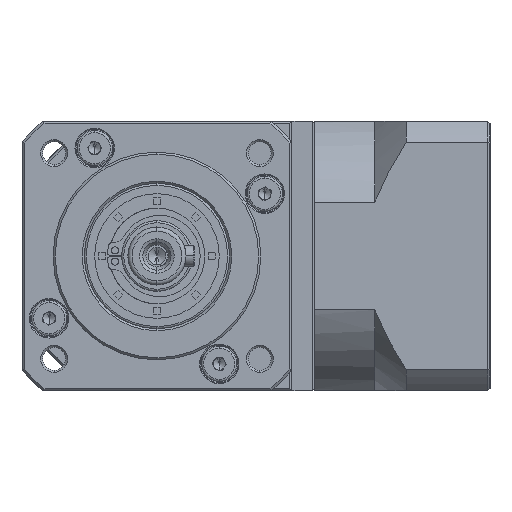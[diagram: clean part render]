
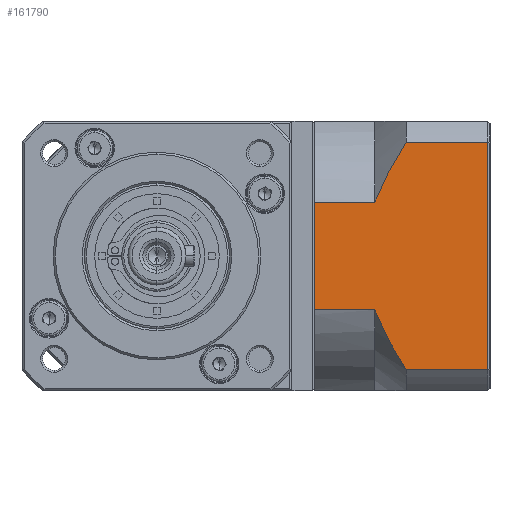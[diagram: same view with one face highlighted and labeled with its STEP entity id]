
A CAD part, left-side view. The second image highlights one B-rep face of the part: STEP entity #161790.
In plain terms, the highlighted planar face has unit normal (-1, 0, 0).
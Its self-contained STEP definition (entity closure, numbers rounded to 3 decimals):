
#1378 = CARTESIAN_POINT ( 'NONE',  ( -45.204, -89.908, -105.763 ) ) ;
#4580 = EDGE_CURVE ( 'NONE', #154354, #100182, #11435, .T. ) ;
#5959 = CARTESIAN_POINT ( 'NONE',  ( -45.204, -48.208, -165.649 ) ) ;
#7754 = CARTESIAN_POINT ( 'NONE',  ( -45.204, -70.208, -160.535 ) ) ;
#8000 = CARTESIAN_POINT ( 'NONE',  ( -45.204, -68.746, -158.267 ) ) ;
#8152 = CARTESIAN_POINT ( 'NONE',  ( -45.204, -67.359, -155.953 ) ) ;
#8299 = CARTESIAN_POINT ( 'NONE',  ( -45.204, -65.454, -152.372 ) ) ;
#8352 = CARTESIAN_POINT ( 'NONE',  ( -45.204, -64.849, -151.16 ) ) ;
#8505 = CARTESIAN_POINT ( 'NONE',  ( -45.204, -63.998, -149.306 ) ) ;
#8548 = CARTESIAN_POINT ( 'NONE',  ( -45.204, -63.725, -148.682 ) ) ;
#9080 = CARTESIAN_POINT ( 'NONE',  ( -45.204, -62.708, -146.14 ) ) ;
#9470 = CARTESIAN_POINT ( 'NONE',  ( -45.204, -62.946, -146.782 ) ) ;
#9625 = CARTESIAN_POINT ( 'NONE',  ( -45.204, -63.199, -147.421 ) ) ;
#11435 = B_SPLINE_CURVE_WITH_KNOTS ( 'NONE', 3,
 ( #9080, #9470, #9625, #8548, #8505, #8352, #8299, #8152, #8000, #7754 ),
 .UNSPECIFIED., .F., .F.,
 ( 4, 2, 2, 2, 4 ),
 ( 0.101, 0.103, 0.105, 0.109, 0.117 ),
 .UNSPECIFIED. ) ;
#16023 = EDGE_CURVE ( 'NONE', #135939, #92182, #148506, .T. ) ;
#17635 = DIRECTION ( 'NONE',  ( 0., -1., 0. ) ) ;
#20440 = ORIENTED_EDGE ( 'NONE', *, *, #144186, .F. ) ;
#21945 = VERTEX_POINT ( 'NONE', #145281 ) ;
#22747 = DIRECTION ( 'NONE',  ( 1., 0., 0. ) ) ;
#23406 = FACE_OUTER_BOUND ( 'NONE', #150719, .T. ) ;
#28427 = CARTESIAN_POINT ( 'NONE',  ( -45.204, -68.759, -108.052 ) ) ;
#41390 = CARTESIAN_POINT ( 'NONE',  ( -45.204, -66.705, -111.573 ) ) ;
#41940 = EDGE_CURVE ( 'NONE', #64549, #92182, #58186, .T. ) ;
#42322 = EDGE_CURVE ( 'NONE', #113428, #21945, #140531, .T. ) ;
#48085 = B_SPLINE_CURVE_WITH_KNOTS ( 'NONE', 3,
 ( #92722, #105701, #28427, #118697, #41390, #131579, #54371, #144392 ),
 .UNSPECIFIED., .F., .F.,
 ( 4, 2, 2, 4 ),
 ( 0.058, 0.062, 0.066, 0.074 ),
 .UNSPECIFIED. ) ;
#49183 = AXIS2_PLACEMENT_3D ( 'NONE', #99996, #22747, #112957 ) ;
#53656 = DIRECTION ( 'NONE',  ( 0., 0., 1. ) ) ;
#53977 = VECTOR ( 'NONE', #144021, 1000. ) ;
#54371 = CARTESIAN_POINT ( 'NONE',  ( -45.204, -63.65, -117.621 ) ) ;
#57034 = LINE ( 'NONE', #107814, #91331 ) ;
#58186 = LINE ( 'NONE', #61349, #156695 ) ;
#61349 = CARTESIAN_POINT ( 'NONE',  ( -45.204, -62.708, -105.763 ) ) ;
#63584 = VECTOR ( 'NONE', #142622, 1000. ) ;
#64549 = VERTEX_POINT ( 'NONE', #126595 ) ;
#66573 = CARTESIAN_POINT ( 'NONE',  ( -45.204, -89.908, -165.649 ) ) ;
#69219 = VERTEX_POINT ( 'NONE', #109168 ) ;
#72341 = CARTESIAN_POINT ( 'NONE',  ( -45.204, -48.208, -120.159 ) ) ;
#76117 = VECTOR ( 'NONE', #109119, 1000. ) ;
#76901 = EDGE_CURVE ( 'NONE', #154354, #21945, #166087, .T. ) ;
#91331 = VECTOR ( 'NONE', #17635, 1000. ) ;
#92182 = VERTEX_POINT ( 'NONE', #1378 ) ;
#92331 = LINE ( 'NONE', #131778, #53977 ) ;
#92722 = CARTESIAN_POINT ( 'NONE',  ( -45.204, -70.208, -105.763 ) ) ;
#97672 = CARTESIAN_POINT ( 'NONE',  ( -45.204, -89.908, -160.535 ) ) ;
#99996 = CARTESIAN_POINT ( 'NONE',  ( -45.204, -90.408, -165.649 ) ) ;
#100182 = VERTEX_POINT ( 'NONE', #110820 ) ;
#105040 = ORIENTED_EDGE ( 'NONE', *, *, #119797, .T. ) ;
#105701 = CARTESIAN_POINT ( 'NONE',  ( -45.204, -69.475, -106.901 ) ) ;
#107660 = CARTESIAN_POINT ( 'NONE',  ( -45.204, -62.708, -146.14 ) ) ;
#107814 = CARTESIAN_POINT ( 'NONE',  ( -45.204, -62.708, -120.159 ) ) ;
#109047 = ORIENTED_EDGE ( 'NONE', *, *, #41940, .F. ) ;
#109119 = DIRECTION ( 'NONE',  ( 0., 0., -1. ) ) ;
#109168 = CARTESIAN_POINT ( 'NONE',  ( -45.204, -62.708, -120.159 ) ) ;
#110820 = CARTESIAN_POINT ( 'NONE',  ( -45.204, -70.208, -160.535 ) ) ;
#112957 = DIRECTION ( 'NONE',  ( 0., 1., 0. ) ) ;
#113428 = VERTEX_POINT ( 'NONE', #72341 ) ;
#118697 = CARTESIAN_POINT ( 'NONE',  ( -45.204, -67.375, -110.387 ) ) ;
#119797 = EDGE_CURVE ( 'NONE', #64549, #69219, #48085, .T. ) ;
#123150 = ORIENTED_EDGE ( 'NONE', *, *, #140506, .F. ) ;
#126595 = CARTESIAN_POINT ( 'NONE',  ( -45.204, -70.208, -105.763 ) ) ;
#131579 = CARTESIAN_POINT ( 'NONE',  ( -45.204, -64.795, -115.169 ) ) ;
#131778 = CARTESIAN_POINT ( 'NONE',  ( -45.204, -62.708, -160.535 ) ) ;
#133299 = ORIENTED_EDGE ( 'NONE', *, *, #16023, .T. ) ;
#135939 = VERTEX_POINT ( 'NONE', #97672 ) ;
#138466 = DIRECTION ( 'NONE',  ( 0., -1., 0. ) ) ;
#140496 = VECTOR ( 'NONE', #53656, 1000. ) ;
#140506 = EDGE_CURVE ( 'NONE', #113428, #69219, #57034, .T. ) ;
#140531 = LINE ( 'NONE', #5959, #76117 ) ;
#142622 = DIRECTION ( 'NONE',  ( 0., 1., 0. ) ) ;
#144021 = DIRECTION ( 'NONE',  ( 0., 1., 0. ) ) ;
#144186 = EDGE_CURVE ( 'NONE', #135939, #100182, #92331, .T. ) ;
#144392 = CARTESIAN_POINT ( 'NONE',  ( -45.204, -62.708, -120.159 ) ) ;
#145281 = CARTESIAN_POINT ( 'NONE',  ( -45.204, -48.208, -146.14 ) ) ;
#146470 = CARTESIAN_POINT ( 'NONE',  ( -45.204, -62.708, -146.14 ) ) ;
#148506 = LINE ( 'NONE', #66573, #140496 ) ;
#149112 = ORIENTED_EDGE ( 'NONE', *, *, #76901, .F. ) ;
#150504 = PLANE ( 'NONE',  #49183 ) ;
#150719 = EDGE_LOOP ( 'NONE', ( #20440, #133299, #109047, #105040, #123150, #153125, #149112, #167022 ) ) ;
#153125 = ORIENTED_EDGE ( 'NONE', *, *, #42322, .T. ) ;
#154354 = VERTEX_POINT ( 'NONE', #107660 ) ;
#156695 = VECTOR ( 'NONE', #138466, 1000. ) ;
#161790 = ADVANCED_FACE ( 'NONE', ( #23406 ), #150504, .F. ) ;
#166087 = LINE ( 'NONE', #146470, #63584 ) ;
#167022 = ORIENTED_EDGE ( 'NONE', *, *, #4580, .T. ) ;
